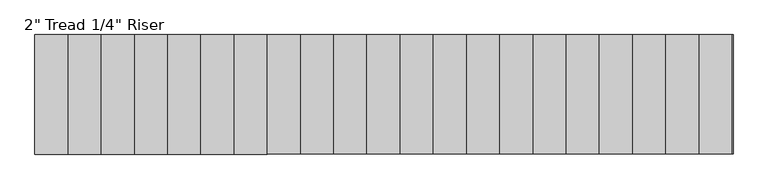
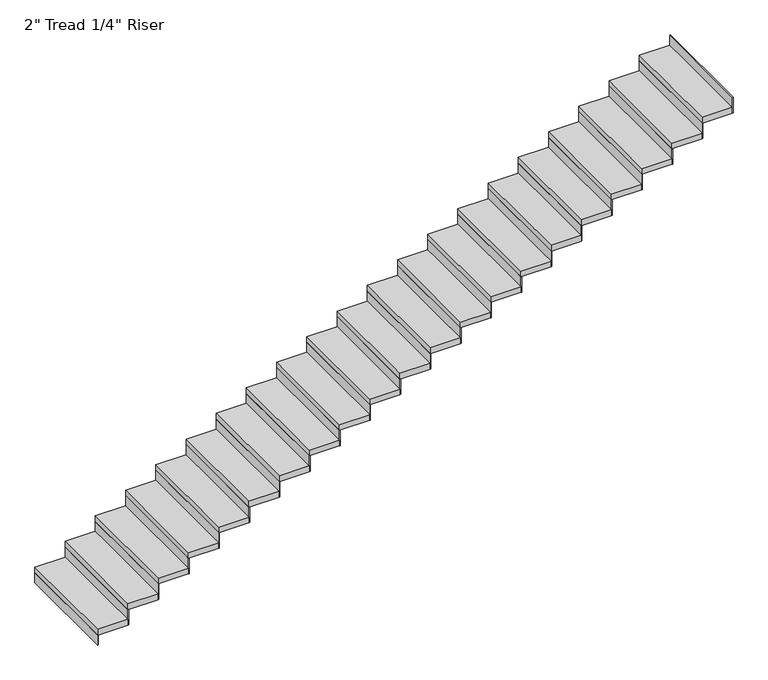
"""IFC4 building model written with IfcOpenShell, lengths in millimetres: stair flight geometry."""

from ifc_helpers import new_model, si_unit, frame, origin, origin_with_axes, place, context, project, spatial, polyline, outline, extrude, source, transform, mapped, element, save


def stair_flight_c90e1b77(model_context):
    return source(origin(), model_context, "Body", "SweptSolid", [
        extrude(outline(polyline([(35788.2667764, -68793.8034511), (35781.9167764, -68793.8034511), (35781.9167764, -67879.4034511), (35788.2667764, -67879.4034511), (35788.2667764, -68793.8034511)])), origin_with_axes(), (0.0, 0.0, 1.0), 87.7454545),
        extrude(outline(polyline([(36035.9167764, -67879.4034511), (36035.9167764, -68793.8034511), (35781.9167764, -68793.8034511), (35781.9167764, -67879.4034511), (36035.9167764, -67879.4034511)])), frame((0.0, 0.0, 87.7454545), z_axis=(0.0, 0.0, 1.0), x_axis=(1.0, 0.0, 0.0)), (0.0, 0.0, 1.0), 50.8),
        extrude(outline(polyline([(36042.2667764, -68793.8034511), (36035.9167764, -68793.8034511), (36035.9167764, -67879.4034511), (36042.2667764, -67879.4034511), (36042.2667764, -68793.8034511)])), frame((0.0, 0.0, 87.7454545), z_axis=(0.0, 0.0, 1.0), x_axis=(1.0, 0.0, 0.0)), (0.0, 0.0, 1.0), 138.5454545),
        extrude(outline(polyline([(36289.9167764, -67879.4034511), (36289.9167764, -68793.8034511), (36035.9167764, -68793.8034511), (36035.9167764, -67879.4034511), (36289.9167764, -67879.4034511)])), frame((0.0, 0.0, 226.2909091), z_axis=(0.0, 0.0, 1.0), x_axis=(1.0, 0.0, 0.0)), (0.0, 0.0, 1.0), 50.8),
        extrude(outline(polyline([(36296.2667764, -68793.8034511), (36289.9167764, -68793.8034511), (36289.9167764, -67879.4034511), (36296.2667764, -67879.4034511), (36296.2667764, -68793.8034511)])), frame((0.0, 0.0, 226.2909091), z_axis=(0.0, 0.0, 1.0), x_axis=(1.0, 0.0, 0.0)), (0.0, 0.0, 1.0), 138.5454545),
        extrude(outline(polyline([(36543.9167764, -67879.4034511), (36543.9167764, -68793.8034511), (36289.9167764, -68793.8034511), (36289.9167764, -67879.4034511), (36543.9167764, -67879.4034511)])), frame((0.0, 0.0, 364.8363636), z_axis=(0.0, 0.0, 1.0), x_axis=(1.0, 0.0, 0.0)), (0.0, 0.0, 1.0), 50.8),
        extrude(outline(polyline([(36550.2667764, -68793.8034511), (36543.9167764, -68793.8034511), (36543.9167764, -67879.4034511), (36550.2667764, -67879.4034511), (36550.2667764, -68793.8034511)])), frame((0.0, 0.0, 364.8363636), z_axis=(0.0, 0.0, 1.0), x_axis=(1.0, 0.0, 0.0)), (0.0, 0.0, 1.0), 138.5454545),
        extrude(outline(polyline([(36797.9167764, -67879.4034511), (36797.9167764, -68793.8034511), (36543.9167764, -68793.8034511), (36543.9167764, -67879.4034511), (36797.9167764, -67879.4034511)])), frame((0.0, 0.0, 503.3818182), z_axis=(0.0, 0.0, 1.0), x_axis=(1.0, 0.0, 0.0)), (0.0, 0.0, 1.0), 50.8),
        extrude(outline(polyline([(36804.2667764, -68793.8034511), (36797.9167764, -68793.8034511), (36797.9167764, -67879.4034511), (36804.2667764, -67879.4034511), (36804.2667764, -68793.8034511)])), frame((0.0, 0.0, 503.3818182), z_axis=(0.0, 0.0, 1.0), x_axis=(1.0, 0.0, 0.0)), (0.0, 0.0, 1.0), 138.5454545),
        extrude(outline(polyline([(37051.9167764, -67879.4034511), (37051.9167764, -68793.8034511), (36797.9167764, -68793.8034511), (36797.9167764, -67879.4034511), (37051.9167764, -67879.4034511)])), frame((0.0, 0.0, 641.9272727), z_axis=(0.0, 0.0, 1.0), x_axis=(1.0, 0.0, 0.0)), (0.0, 0.0, 1.0), 50.8),
        extrude(outline(polyline([(37058.2667764, -68793.8034511), (37051.9167764, -68793.8034511), (37051.9167764, -67879.4034511), (37058.2667764, -67879.4034511), (37058.2667764, -68793.8034511)])), frame((0.0, 0.0, 641.9272727), z_axis=(0.0, 0.0, 1.0), x_axis=(1.0, 0.0, 0.0)), (0.0, 0.0, 1.0), 138.5454545),
        extrude(outline(polyline([(37305.9167764, -67879.4034511), (37305.9167764, -68793.8034511), (37051.9167764, -68793.8034511), (37051.9167764, -67879.4034511), (37305.9167764, -67879.4034511)])), frame((0.0, 0.0, 780.4727273), z_axis=(0.0, 0.0, 1.0), x_axis=(1.0, 0.0, 0.0)), (0.0, 0.0, 1.0), 50.8),
        extrude(outline(polyline([(37312.2667764, -68793.8034511), (37305.9167764, -68793.8034511), (37305.9167764, -67879.4034511), (37312.2667764, -67879.4034511), (37312.2667764, -68793.8034511)])), frame((0.0, 0.0, 780.4727273), z_axis=(0.0, 0.0, 1.0), x_axis=(1.0, 0.0, 0.0)), (0.0, 0.0, 1.0), 138.5454545),
        extrude(outline(polyline([(37559.9167764, -67879.4034511), (37559.9167764, -68793.8034511), (37305.9167764, -68793.8034511), (37305.9167764, -67879.4034511), (37559.9167764, -67879.4034511)])), frame((0.0, 0.0, 919.0181818), z_axis=(0.0, 0.0, 1.0), x_axis=(1.0, 0.0, 0.0)), (0.0, 0.0, 1.0), 50.8),
        extrude(outline(polyline([(37566.2667764, -68793.8034511), (37559.9167764, -68793.8034511), (37559.9167764, -67879.4034511), (37566.2667764, -67879.4034511), (37566.2667764, -68793.8034511)])), frame((0.0, 0.0, 919.0181818), z_axis=(0.0, 0.0, 1.0), x_axis=(1.0, 0.0, 0.0)), (0.0, 0.0, 1.0), 138.5454545),
        extrude(outline(polyline([(37813.9167764, -67879.4034511), (37813.9167764, -68793.8034511), (37559.9167764, -68793.8034511), (37559.9167764, -67879.4034511), (37813.9167764, -67879.4034511)])), frame((0.0, 0.0, 1057.5636364), z_axis=(0.0, 0.0, 1.0), x_axis=(1.0, 0.0, 0.0)), (0.0, 0.0, 1.0), 50.8),
        extrude(outline(polyline([(37820.2667764, -68793.8034511), (37813.9167764, -68793.8034511), (37813.9167764, -67879.4034511), (37820.2667764, -67879.4034511), (37820.2667764, -68793.8034511)])), frame((0.0, 0.0, 1057.5636364), z_axis=(0.0, 0.0, 1.0), x_axis=(1.0, 0.0, 0.0)), (0.0, 0.0, 1.0), 138.5454545),
        extrude(outline(polyline([(38067.9167764, -67879.4034511), (38067.9167764, -68793.8034511), (37813.9167764, -68793.8034511), (37813.9167764, -67879.4034511), (38067.9167764, -67879.4034511)])), frame((0.0, 0.0, 1196.1090909), z_axis=(0.0, 0.0, 1.0), x_axis=(1.0, 0.0, 0.0)), (0.0, 0.0, 1.0), 50.8),
        extrude(outline(polyline([(38074.2667764, -68793.8034511), (38067.9167764, -68793.8034511), (38067.9167764, -67879.4034511), (38074.2667764, -67879.4034511), (38074.2667764, -68793.8034511)])), frame((0.0, 0.0, 1196.1090909), z_axis=(0.0, 0.0, 1.0), x_axis=(1.0, 0.0, 0.0)), (0.0, 0.0, 1.0), 138.5454545),
        extrude(outline(polyline([(38321.9167764, -67879.4034511), (38321.9167764, -68793.8034511), (38067.9167764, -68793.8034511), (38067.9167764, -67879.4034511), (38321.9167764, -67879.4034511)])), frame((0.0, 0.0, 1334.6545455), z_axis=(0.0, 0.0, 1.0), x_axis=(1.0, 0.0, 0.0)), (0.0, 0.0, 1.0), 50.8),
        extrude(outline(polyline([(38328.2667764, -68793.8034511), (38321.9167764, -68793.8034511), (38321.9167764, -67879.4034511), (38328.2667764, -67879.4034511), (38328.2667764, -68793.8034511)])), frame((0.0, 0.0, 1334.6545455), z_axis=(0.0, 0.0, 1.0), x_axis=(1.0, 0.0, 0.0)), (0.0, 0.0, 1.0), 138.5454545),
        extrude(outline(polyline([(38575.9167764, -67879.4034511), (38575.9167764, -68793.8034511), (38321.9167764, -68793.8034511), (38321.9167764, -67879.4034511), (38575.9167764, -67879.4034511)])), frame((0.0, 0.0, 1473.2), z_axis=(0.0, 0.0, 1.0), x_axis=(1.0, 0.0, 0.0)), (0.0, 0.0, 1.0), 50.8),
        extrude(outline(polyline([(38582.2667764, -68793.8034511), (38575.9167764, -68793.8034511), (38575.9167764, -67879.4034511), (38582.2667764, -67879.4034511), (38582.2667764, -68793.8034511)])), frame((0.0, 0.0, 1473.2), z_axis=(0.0, 0.0, 1.0), x_axis=(1.0, 0.0, 0.0)), (0.0, 0.0, 1.0), 138.5454545),
        extrude(outline(polyline([(38829.9167764, -67879.4034511), (38829.9167764, -68793.8034511), (38575.9167764, -68793.8034511), (38575.9167764, -67879.4034511), (38829.9167764, -67879.4034511)])), frame((0.0, 0.0, 1611.7454545), z_axis=(0.0, 0.0, 1.0), x_axis=(1.0, 0.0, 0.0)), (0.0, 0.0, 1.0), 50.8),
        extrude(outline(polyline([(38836.2667764, -68793.8034511), (38829.9167764, -68793.8034511), (38829.9167764, -67879.4034511), (38836.2667764, -67879.4034511), (38836.2667764, -68793.8034511)])), frame((0.0, 0.0, 1611.7454545), z_axis=(0.0, 0.0, 1.0), x_axis=(1.0, 0.0, 0.0)), (0.0, 0.0, 1.0), 138.5454545),
        extrude(outline(polyline([(39083.9167764, -67879.4034511), (39083.9167764, -68793.8034511), (38829.9167764, -68793.8034511), (38829.9167764, -67879.4034511), (39083.9167764, -67879.4034511)])), frame((0.0, 0.0, 1750.2909091), z_axis=(0.0, 0.0, 1.0), x_axis=(1.0, 0.0, 0.0)), (0.0, 0.0, 1.0), 50.8),
        extrude(outline(polyline([(39090.2667764, -68793.8034511), (39083.9167764, -68793.8034511), (39083.9167764, -67879.4034511), (39090.2667764, -67879.4034511), (39090.2667764, -68793.8034511)])), frame((0.0, 0.0, 1750.2909091), z_axis=(0.0, 0.0, 1.0), x_axis=(1.0, 0.0, 0.0)), (0.0, 0.0, 1.0), 138.5454545),
        extrude(outline(polyline([(39337.9167764, -67879.4034511), (39337.9167764, -68793.8034511), (39083.9167764, -68793.8034511), (39083.9167764, -67879.4034511), (39337.9167764, -67879.4034511)])), frame((0.0, 0.0, 1888.8363636), z_axis=(0.0, 0.0, 1.0), x_axis=(1.0, 0.0, 0.0)), (0.0, 0.0, 1.0), 50.8),
        extrude(outline(polyline([(39344.2667764, -68793.8034511), (39337.9167764, -68793.8034511), (39337.9167764, -67879.4034511), (39344.2667764, -67879.4034511), (39344.2667764, -68793.8034511)])), frame((0.0, 0.0, 1888.8363636), z_axis=(0.0, 0.0, 1.0), x_axis=(1.0, 0.0, 0.0)), (0.0, 0.0, 1.0), 138.5454545),
        extrude(outline(polyline([(39591.9167764, -67879.4034511), (39591.9167764, -68793.8034511), (39337.9167764, -68793.8034511), (39337.9167764, -67879.4034511), (39591.9167764, -67879.4034511)])), frame((0.0, 0.0, 2027.3818182), z_axis=(0.0, 0.0, 1.0), x_axis=(1.0, 0.0, 0.0)), (0.0, 0.0, 1.0), 50.8),
        extrude(outline(polyline([(39598.2667764, -68793.8034511), (39591.9167764, -68793.8034511), (39591.9167764, -67879.4034511), (39598.2667764, -67879.4034511), (39598.2667764, -68793.8034511)])), frame((0.0, 0.0, 2027.3818182), z_axis=(0.0, 0.0, 1.0), x_axis=(1.0, 0.0, 0.0)), (0.0, 0.0, 1.0), 138.5454545),
        extrude(outline(polyline([(39845.9167764, -67879.4034511), (39845.9167764, -68793.8034511), (39591.9167764, -68793.8034511), (39591.9167764, -67879.4034511), (39845.9167764, -67879.4034511)])), frame((0.0, 0.0, 2165.9272727), z_axis=(0.0, 0.0, 1.0), x_axis=(1.0, 0.0, 0.0)), (0.0, 0.0, 1.0), 50.8),
        extrude(outline(polyline([(39852.2667764, -68793.8034511), (39845.9167764, -68793.8034511), (39845.9167764, -67879.4034511), (39852.2667764, -67879.4034511), (39852.2667764, -68793.8034511)])), frame((0.0, 0.0, 2165.9272727), z_axis=(0.0, 0.0, 1.0), x_axis=(1.0, 0.0, 0.0)), (0.0, 0.0, 1.0), 138.5454545),
        extrude(outline(polyline([(40099.9167764, -67879.4034511), (40099.9167764, -68793.8034511), (39845.9167764, -68793.8034511), (39845.9167764, -67879.4034511), (40099.9167764, -67879.4034511)])), frame((0.0, 0.0, 2304.4727273), z_axis=(0.0, 0.0, 1.0), x_axis=(1.0, 0.0, 0.0)), (0.0, 0.0, 1.0), 50.8),
        extrude(outline(polyline([(40106.2667764, -68793.8034511), (40099.9167764, -68793.8034511), (40099.9167764, -67879.4034511), (40106.2667764, -67879.4034511), (40106.2667764, -68793.8034511)])), frame((0.0, 0.0, 2304.4727273), z_axis=(0.0, 0.0, 1.0), x_axis=(1.0, 0.0, 0.0)), (0.0, 0.0, 1.0), 138.5454545),
        extrude(outline(polyline([(40353.9167764, -67879.4034511), (40353.9167764, -68793.8034511), (40099.9167764, -68793.8034511), (40099.9167764, -67879.4034511), (40353.9167764, -67879.4034511)])), frame((0.0, 0.0, 2443.0181818), z_axis=(0.0, 0.0, 1.0), x_axis=(1.0, 0.0, 0.0)), (0.0, 0.0, 1.0), 50.8),
        extrude(outline(polyline([(40360.2667764, -68793.8034511), (40353.9167764, -68793.8034511), (40353.9167764, -67879.4034511), (40360.2667764, -67879.4034511), (40360.2667764, -68793.8034511)])), frame((0.0, 0.0, 2443.0181818), z_axis=(0.0, 0.0, 1.0), x_axis=(1.0, 0.0, 0.0)), (0.0, 0.0, 1.0), 138.5454545),
        extrude(outline(polyline([(40607.9167764, -67879.4034511), (40607.9167764, -68793.8034511), (40353.9167764, -68793.8034511), (40353.9167764, -67879.4034511), (40607.9167764, -67879.4034511)])), frame((0.0, 0.0, 2581.5636364), z_axis=(0.0, 0.0, 1.0), x_axis=(1.0, 0.0, 0.0)), (0.0, 0.0, 1.0), 50.8),
        extrude(outline(polyline([(40614.2667764, -68793.8034511), (40607.9167764, -68793.8034511), (40607.9167764, -67879.4034511), (40614.2667764, -67879.4034511), (40614.2667764, -68793.8034511)])), frame((0.0, 0.0, 2581.5636364), z_axis=(0.0, 0.0, 1.0), x_axis=(1.0, 0.0, 0.0)), (0.0, 0.0, 1.0), 138.5454545),
        extrude(outline(polyline([(40861.9167764, -67879.4034511), (40861.9167764, -68793.8034511), (40607.9167764, -68793.8034511), (40607.9167764, -67879.4034511), (40861.9167764, -67879.4034511)])), frame((0.0, 0.0, 2720.1090909), z_axis=(0.0, 0.0, 1.0), x_axis=(1.0, 0.0, 0.0)), (0.0, 0.0, 1.0), 50.8),
        extrude(outline(polyline([(40868.2667764, -68793.8034511), (40861.9167764, -68793.8034511), (40861.9167764, -67879.4034511), (40868.2667764, -67879.4034511), (40868.2667764, -68793.8034511)])), frame((0.0, 0.0, 2720.1090909), z_axis=(0.0, 0.0, 1.0), x_axis=(1.0, 0.0, 0.0)), (0.0, 0.0, 1.0), 138.5454545),
        extrude(outline(polyline([(41122.2667764, -68793.8034511), (41115.9167764, -68793.8034511), (41115.9167764, -67879.4034511), (41122.2667764, -67879.4034511), (41122.2667764, -68793.8034511)])), frame((0.0, 0.0, 2858.6545455), z_axis=(0.0, 0.0, 1.0), x_axis=(1.0, 0.0, 0.0)), (0.0, 0.0, 1.0), 138.5454545),
        extrude(outline(polyline([(41115.9167764, -67879.4034511), (41115.9167764, -68793.8034511), (40861.9167764, -68793.8034511), (40861.9167764, -67879.4034511), (41115.9167764, -67879.4034511)])), frame((0.0, 0.0, 2858.6545455), z_axis=(0.0, 0.0, 1.0), x_axis=(1.0, 0.0, 0.0)), (0.0, 0.0, 1.0), 50.8),
    ])


if __name__ == "__main__":
    model = new_model("IFC4")
    model_context = context("Model", 3, world=origin())
    ifc_project = project(units=[si_unit("LENGTHUNIT", "METRE", prefix="MILLI")], contexts=[model_context])
    site = spatial("IfcSite", under=ifc_project)
    building = spatial("IfcBuilding", under=site)
    placement = place(None, origin())
    stair_flight_shape = stair_flight_c90e1b77(model_context)
    element("IfcStairFlight", 1, ObjectType="2\" Tread 1/4\" Riser", at=placement, inside=building, context=model_context, shape_type="MappedRepresentation", body=[
        mapped(stair_flight_shape, transform((0.0, 0.0, 0.0), x_axis=(1.0, 0.0, 0.0), y_axis=(0.0, 1.0, 0.0), z_axis=(0.0, 0.0, 1.0))),
    ])
    save(model, "model.ifc")
